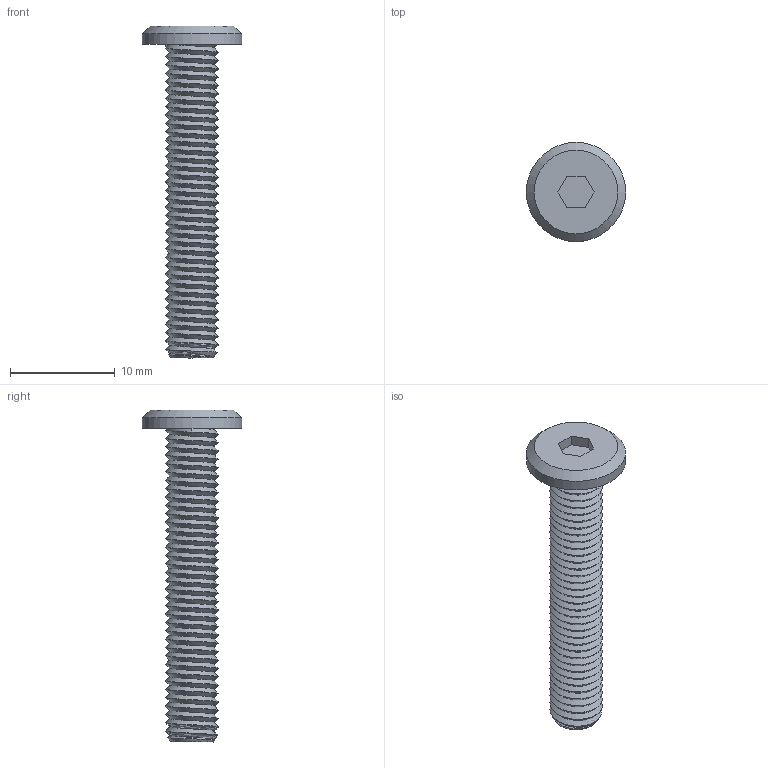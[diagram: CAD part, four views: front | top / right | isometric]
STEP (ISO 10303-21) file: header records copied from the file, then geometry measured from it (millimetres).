
FILE_DESCRIPTION(/* description */ ('STEP AP242 Edition 2','CAx-IF Rec.Pracs.---Representation and Presentation of Product Manufacturing Information (PMI)---4.0---2014-10-13','CAx-IF Rec.Pracs.---3D Tessellated Geometry---0.4---2014-09-14','2;1','CAx-IF Rec.Pracs.---User Defined Attributes---1.5---2016-08-15'),/* implementation_level */ '2;1');
FILE_NAME(/* name */ 'Final Build - M5x30 (2)',/* time_stamp */ '2026-08-31T23:26:18Z',/* author */ (''),/* organization */ (''),/* preprocessor_version */ 'ST-DEVELOPER v20',/* originating_system */ 'ONSHAPE BY PTC INC, 1.220',/* authorisation */ ' ');
FILE_SCHEMA (('AP242_MANAGED_MODEL_BASED_3D_ENGINEERING_MIM_LF { 1 0 10303 442 3 1 4 }'));
Length unit declared in the file: metre
Products named in the file (1): M5x30
Bounding box: 9.5 x 9.5 x 31.75 mm (x, y, z)
Volume: 613.5 mm3; surface area: 793.2 mm2
Topology: 1 solids, 1 shells, 18 faces, 113 edges, 99 vertices
Faces by surface type: plane 11, cylinder 3, cone 2, bspline 2
Full cylindrical faces by diameter (mm): 9.5 x1
Entity records: 4122 total; most frequent: CARTESIAN_POINT 3447, ORIENTED_EDGE 216, EDGE_CURVE 108, VERTEX_POINT 97, DIRECTION 70, AXIS2_PLACEMENT_3D 24, EDGE_LOOP 23, FACE_BOUND 23
